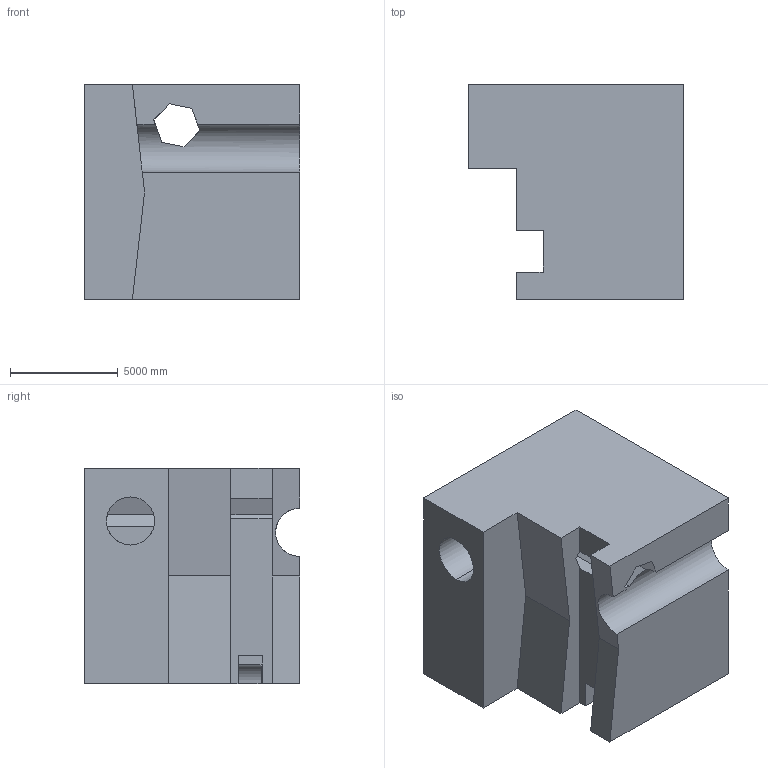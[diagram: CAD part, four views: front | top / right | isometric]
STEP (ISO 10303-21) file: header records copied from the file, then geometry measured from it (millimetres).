
FILE_DESCRIPTION (( 'STEP AP203' ), '1' );
FILE_NAME ('362.STEP', '2022-09-07T15:22:48', ( 'user' ), ( '' ), 'SwSTEP 2.0', 'SolidWorks 2021', '' );
FILE_SCHEMA (( 'CONFIG_CONTROL_DESIGN' ));
Length unit declared in the file: centimetre
Products named in the file (1): 362
Bounding box: 10000 x 10000 x 10000 mm (x, y, z)
Volume: 730831899592.7 mm3; surface area: 712200286.9 mm2
Topology: 1 solids, 1 shells, 46 faces, 141 edges, 94 vertices
Faces by surface type: plane 39, cylinder 7
Entity records: 1648 total; most frequent: CARTESIAN_POINT 315, ORIENTED_EDGE 282, DIRECTION 238, EDGE_CURVE 141, VECTOR 116, LINE 116, VERTEX_POINT 94, AXIS2_PLACEMENT_3D 61
